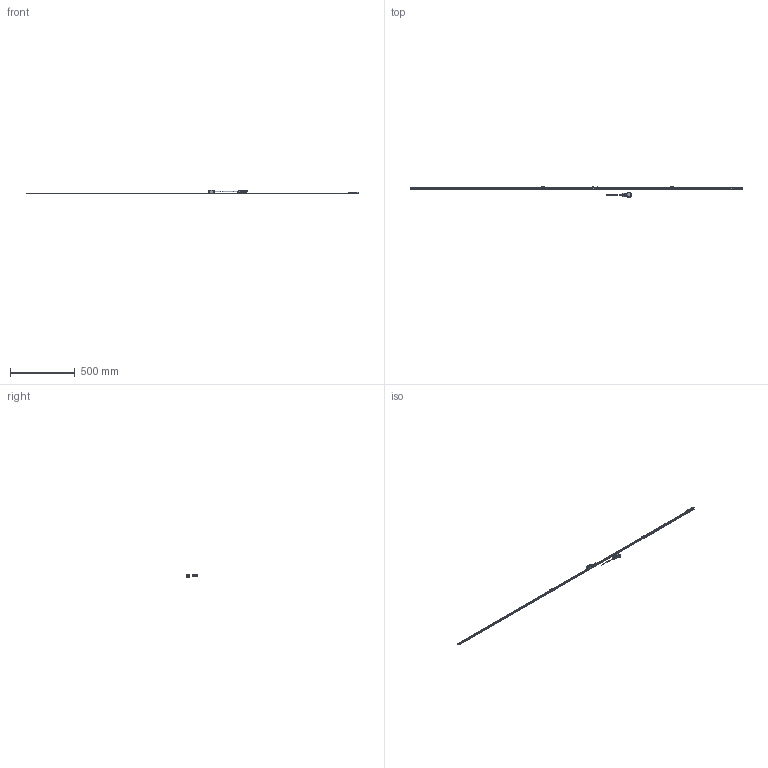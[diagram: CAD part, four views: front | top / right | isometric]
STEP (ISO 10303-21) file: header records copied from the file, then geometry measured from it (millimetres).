
FILE_DESCRIPTION(('Creo Elements/Direct Modeling STEP Export'),'2;1');
FILE_NAME('ST1300-2400D.stp','2018-03-01T13:47:32',(''),(''),'Creo Elements/Direct Modeling STEP processor for AP214 (Solid Model)','Creo Elements/Direct Modeling 18.1B 29-Sep-2012 (C) Parametric Technology GmbH','');
FILE_SCHEMA(('AUTOMOTIVE_DESIGN { 1 0 10303 214 1 1 1 1 }'));
Length unit declared in the file: millimetre
Products named in the file (4): Detector_Head; Scale_2400; Connector; ST1300-2400D
Assembly tree (3 placements, depth 2):
  ST1300-2400D
    Connector
    Scale_2400
    Detector_Head
Bounding box: 2573 x 88.3 x 30.1 mm (x, y, z)
Volume: 233686.9 mm3; surface area: 155981 mm2
Topology: 2 solids, 10 shells, 4122 faces, 11220 edges, 7285 vertices
Faces by surface type: plane 1920, cylinder 1720, extrusion 314, cone 107, torus 34, bspline 23, revolution 4
Entity records: 136114 total; most frequent: CARTESIAN_POINT 32090, ORIENTED_EDGE 22416, DIRECTION 20440, EDGE_CURVE 11204, VERTEX_POINT 7285, VECTOR 6868, AXIS2_PLACEMENT_3D 6783, LINE 6578
